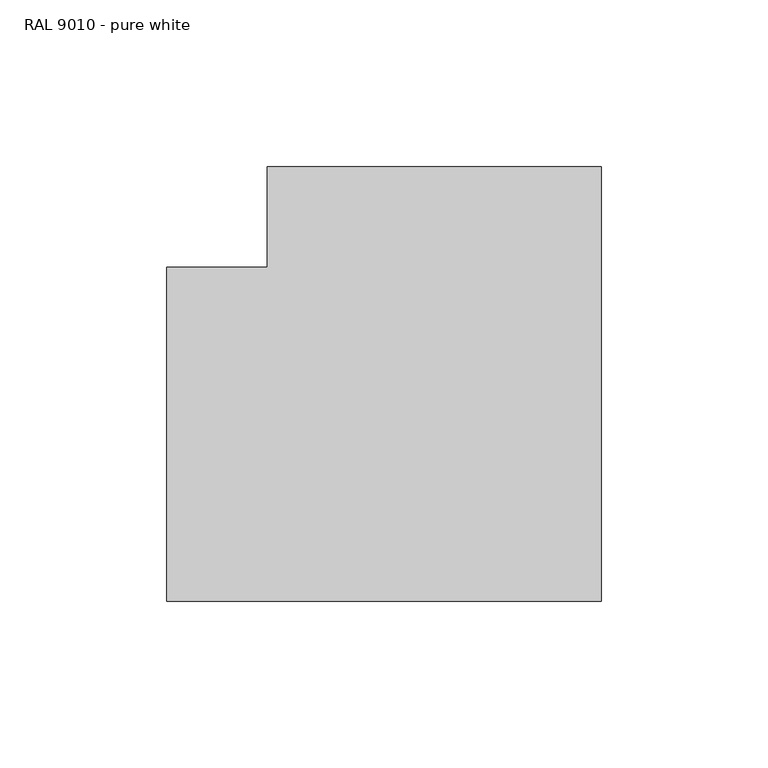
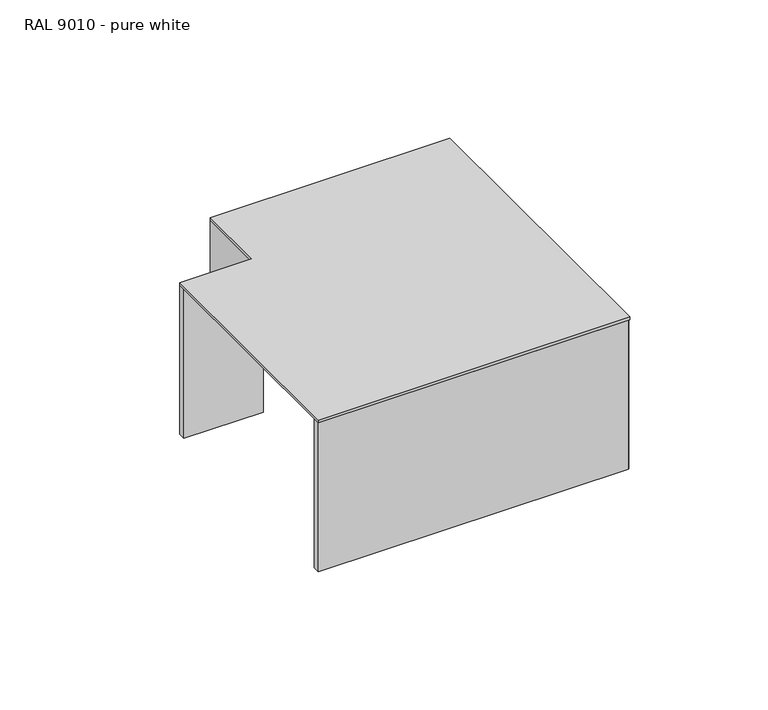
"""IFC4 building model written with IfcOpenShell, lengths in millimetres: cable carrier fitting geometry, Electrical_Installations_Hager_BRP-Flat-Corner-PC-ABS-Vertical-Inside-And-Outside-Bend-One-Compartment : RAL 9010 - pure white."""

from ifc_helpers import new_model, si_unit, point, frame, frame_2d, origin, place, context, project, spatial, polyline, circle_curve, trimmed, segment, composite_curve, outline, extrude, source, transform, mapped, element, save


def ral_9010_pure_white_cc841c97(model_context):
    return source(origin(), model_context, "Body", "SweptSolid", [
        extrude(outline(polyline([(-50.0, 80.0), (50.0, 80.0), (50.0, -50.0), (-80.0, -50.0), (-80.0, 50.0), (-50.0, 50.0), (-50.0, 80.0)])), frame((0.0, 0.0, 32.8402081), z_axis=(0.0, 0.0, 1.0), x_axis=(1.0, 0.0, 0.0)), (0.0, 0.0, 1.0), 1.1597919),
        extrude(outline(composite_curve([segment(polyline([(49.3130803, -50.0), (-80.0, -50.0), (-80.0, -47.0), (47.0, -47.0), (47.0, 80.0), (50.0, 80.0), (50.0, -49.3130803)]), True, "CONTINUOUS"), segment(trimmed(circle_curve(frame_2d((49.3130803, -49.3130803)), 0.6869197), [point((50.0, -49.3130803))], [point((49.3130803, -50.0))], False, "CARTESIAN"), True, "CONTINUOUS")], self_intersect=False)), frame((0.0, 0.0, -32.8402081), z_axis=(0.0, 0.0, 1.0), x_axis=(1.0, 0.0, 0.0)), (0.0, 0.0, 1.0), 65.6804162),
        extrude(outline(polyline([(-50.0, 50.0), (-50.0, 80.0), (-47.0, 80.0), (-47.0, 47.0), (-80.0, 47.0), (-80.0, 50.0), (-50.0, 50.0)])), frame((0.0, 0.0, -32.8402081), z_axis=(0.0, 0.0, 1.0), x_axis=(1.0, 0.0, 0.0)), (0.0, 0.0, 1.0), 65.6804162),
    ])


if __name__ == "__main__":
    model = new_model("IFC4")
    model_context = context("Model", 3, world=origin())
    ifc_project = project(units=[si_unit("LENGTHUNIT", "METRE", prefix="MILLI")], contexts=[model_context])
    site = spatial("IfcSite", under=ifc_project)
    building = spatial("IfcBuilding", under=site)
    placement = place(None, origin())
    ral_9010_pure_white_shape = ral_9010_pure_white_cc841c97(model_context)
    element("IfcCableCarrierFitting", 1, ObjectType="Electrical_Installations_Hager_BRP-Flat-Corner-PC-ABS-Vertical-Inside-And-Outside-Bend-One-Compartment : RAL 9010 - pure white", at=placement, inside=building, context=model_context, shape_type="MappedRepresentation", body=[
        mapped(ral_9010_pure_white_shape, transform((0.0, 0.0, 0.0), x_axis=(1.0, 0.0, 0.0), y_axis=(0.0, 1.0, 0.0), z_axis=(0.0, 0.0, 1.0))),
    ])
    save(model, "model.ifc")
